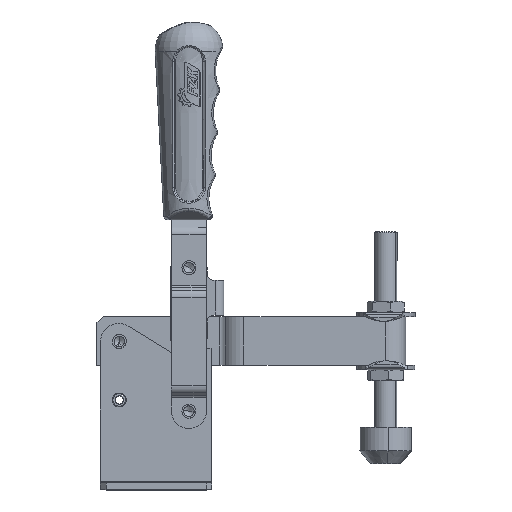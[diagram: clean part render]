
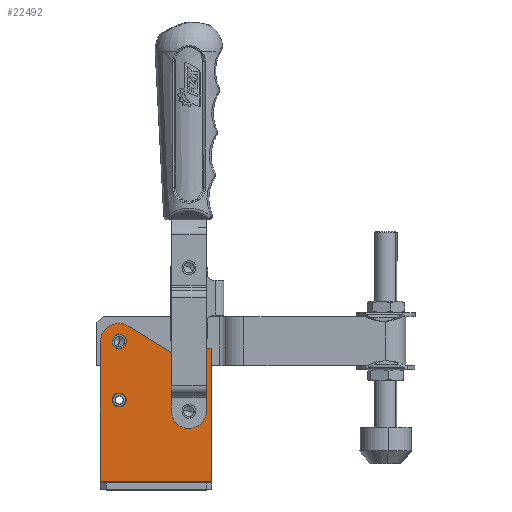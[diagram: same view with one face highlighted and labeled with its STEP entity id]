
A CAD part, top view. The second image highlights one B-rep face of the part: STEP entity #22492.
In plain terms, the highlighted planar face has unit normal (0, 0, 1).
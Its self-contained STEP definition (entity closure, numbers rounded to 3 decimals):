
#164 = CARTESIAN_POINT ( 'NONE',  ( 13.5, 136.997, 5. ) ) ;
#466 = ORIENTED_EDGE ( 'NONE', *, *, #13673, .T. ) ;
#587 = PLANE ( 'NONE',  #29264 ) ;
#688 = AXIS2_PLACEMENT_3D ( 'NONE', #164, #25262, #12960 ) ;
#746 = VERTEX_POINT ( 'NONE', #4197 ) ;
#866 = DIRECTION ( 'NONE',  ( 0., 0., 1. ) ) ;
#889 = DIRECTION ( 'NONE',  ( -1., 0., 0. ) ) ;
#1905 = ORIENTED_EDGE ( 'NONE', *, *, #17325, .T. ) ;
#2226 = VECTOR ( 'NONE', #2528, 1000. ) ;
#2232 = DIRECTION ( 'NONE',  ( 0., 0., 1. ) ) ;
#2513 = LINE ( 'NONE', #9915, #32163 ) ;
#2528 = DIRECTION ( 'NONE',  ( 1., 0., 0. ) ) ;
#3041 = FACE_OUTER_BOUND ( 'NONE', #17017, .T. ) ;
#3813 = CIRCLE ( 'NONE', #688, 5. ) ;
#4197 = CARTESIAN_POINT ( 'NONE',  ( 8.5, 136.997, 5. ) ) ;
#4724 = EDGE_CURVE ( 'NONE', #746, #17365, #7671, .T. ) ;
#5015 = DIRECTION ( 'NONE',  ( -1., 0., 0. ) ) ;
#5087 = CARTESIAN_POINT ( 'NONE',  ( 80., 131.497, 5. ) ) ;
#5355 = FACE_BOUND ( 'NONE', #15158, .T. ) ;
#5454 = CARTESIAN_POINT ( 'NONE',  ( 18.5, 95., 5. ) ) ;
#5609 = CARTESIAN_POINT ( 'NONE',  ( 80., 36.499, 5. ) ) ;
#5649 = AXIS2_PLACEMENT_3D ( 'NONE', #17110, #9088, #26788 ) ;
#5791 = CARTESIAN_POINT ( 'NONE',  ( 63.5, 87., 5. ) ) ;
#5844 = DIRECTION ( 'NONE',  ( 0., 0., 1. ) ) ;
#6181 = VERTEX_POINT ( 'NONE', #17972 ) ;
#6358 = DIRECTION ( 'NONE',  ( 1., 0., 0. ) ) ;
#6775 = VERTEX_POINT ( 'NONE', #8251 ) ;
#6825 = ORIENTED_EDGE ( 'NONE', *, *, #25331, .F. ) ;
#6865 = EDGE_CURVE ( 'NONE', #13049, #6775, #9532, .T. ) ;
#7455 = CARTESIAN_POINT ( 'NONE',  ( 63.5, 36.499, 5. ) ) ;
#7469 = ORIENTED_EDGE ( 'NONE', *, *, #27744, .T. ) ;
#7608 = CIRCLE ( 'NONE', #22887, 13. ) ;
#7671 = CIRCLE ( 'NONE', #9240, 5. ) ;
#7718 = CARTESIAN_POINT ( 'NONE',  ( 18.5, 136.997, 5. ) ) ;
#7986 = DIRECTION ( 'NONE',  ( -1., 0., 0. ) ) ;
#8094 = VERTEX_POINT ( 'NONE', #20250 ) ;
#8251 = CARTESIAN_POINT ( 'NONE',  ( 56.5, 87., 5. ) ) ;
#8276 = DIRECTION ( 'NONE',  ( -0.852, 0.523, 0. ) ) ;
#8458 = DIRECTION ( 'NONE',  ( -1., 0., 0. ) ) ;
#9088 = DIRECTION ( 'NONE',  ( 0., 0., 1. ) ) ;
#9240 = AXIS2_PLACEMENT_3D ( 'NONE', #14535, #24864, #12714 ) ;
#9532 = CIRCLE ( 'NONE', #14230, 7. ) ;
#9757 = CARTESIAN_POINT ( 'NONE',  ( 0., 136.997, 5. ) ) ;
#9915 = CARTESIAN_POINT ( 'NONE',  ( 80., 4., 5. ) ) ;
#9966 = VERTEX_POINT ( 'NONE', #5454 ) ;
#10297 = CARTESIAN_POINT ( 'NONE',  ( 75.575, 131.682, 5. ) ) ;
#10363 = CIRCLE ( 'NONE', #5649, 5. ) ;
#10391 = VERTEX_POINT ( 'NONE', #15486 ) ;
#10479 = EDGE_CURVE ( 'NONE', #32410, #10391, #32370, .T. ) ;
#10585 = EDGE_CURVE ( 'NONE', #9966, #8094, #10363, .T. ) ;
#10936 = ORIENTED_EDGE ( 'NONE', *, *, #10585, .F. ) ;
#11055 = DIRECTION ( 'NONE',  ( 0., 0., -1. ) ) ;
#12002 = LINE ( 'NONE', #21700, #31234 ) ;
#12147 = ORIENTED_EDGE ( 'NONE', *, *, #21933, .T. ) ;
#12205 = CIRCLE ( 'NONE', #25368, 7. ) ;
#12626 = ORIENTED_EDGE ( 'NONE', *, *, #10479, .T. ) ;
#12714 = DIRECTION ( 'NONE',  ( -1., 0., 0. ) ) ;
#12888 = DIRECTION ( 'NONE',  ( 1., 0., 0. ) ) ;
#12889 = ORIENTED_EDGE ( 'NONE', *, *, #19101, .T. ) ;
#12960 = DIRECTION ( 'NONE',  ( -1., 0., 0. ) ) ;
#13049 = VERTEX_POINT ( 'NONE', #28628 ) ;
#13407 = DIRECTION ( 'NONE',  ( 0., 0., 1. ) ) ;
#13461 = EDGE_CURVE ( 'NONE', #29558, #14341, #12002, .T. ) ;
#13521 = VERTEX_POINT ( 'NONE', #25120 ) ;
#13673 = EDGE_CURVE ( 'NONE', #17412, #6181, #23885, .T. ) ;
#14230 = AXIS2_PLACEMENT_3D ( 'NONE', #5791, #866, #23501 ) ;
#14341 = VERTEX_POINT ( 'NONE', #25953 ) ;
#14535 = CARTESIAN_POINT ( 'NONE',  ( 13.5, 136.997, 5. ) ) ;
#15158 = EDGE_LOOP ( 'NONE', ( #26232, #10936 ) ) ;
#15360 = VECTOR ( 'NONE', #8276, 1000. ) ;
#15361 = CARTESIAN_POINT ( 'NONE',  ( 63.5, 87., 5. ) ) ;
#15486 = CARTESIAN_POINT ( 'NONE',  ( 56.697, 125.419, 5. ) ) ;
#16154 = LINE ( 'NONE', #28962, #20319 ) ;
#16653 = EDGE_LOOP ( 'NONE', ( #17744, #6825 ) ) ;
#16832 = EDGE_CURVE ( 'NONE', #6775, #13049, #12205, .T. ) ;
#17017 = EDGE_LOOP ( 'NONE', ( #17785, #19649, #12889, #466, #12147, #27820, #12626, #1905, #7469 ) ) ;
#17110 = CARTESIAN_POINT ( 'NONE',  ( 13.5, 95., 5. ) ) ;
#17325 = EDGE_CURVE ( 'NONE', #10391, #13521, #21226, .T. ) ;
#17365 = VERTEX_POINT ( 'NONE', #7718 ) ;
#17412 = VERTEX_POINT ( 'NONE', #5087 ) ;
#17485 = CARTESIAN_POINT ( 'NONE',  ( 13., 136.997, 5. ) ) ;
#17744 = ORIENTED_EDGE ( 'NONE', *, *, #4724, .F. ) ;
#17785 = ORIENTED_EDGE ( 'NONE', *, *, #13461, .T. ) ;
#17972 = CARTESIAN_POINT ( 'NONE',  ( 79.5, 131.997, 5. ) ) ;
#18138 = FACE_BOUND ( 'NONE', #16653, .T. ) ;
#18825 = CARTESIAN_POINT ( 'NONE',  ( 79.5, 131.497, 5. ) ) ;
#19101 = EDGE_CURVE ( 'NONE', #21429, #17412, #2513, .T. ) ;
#19203 = AXIS2_PLACEMENT_3D ( 'NONE', #24158, #23836, #7986 ) ;
#19356 = ORIENTED_EDGE ( 'NONE', *, *, #6865, .F. ) ;
#19649 = ORIENTED_EDGE ( 'NONE', *, *, #23270, .T. ) ;
#20250 = CARTESIAN_POINT ( 'NONE',  ( 8.5, 95., 5. ) ) ;
#20270 = CARTESIAN_POINT ( 'NONE',  ( 76.04, 131.997, 5. ) ) ;
#20319 = VECTOR ( 'NONE', #30776, 1000. ) ;
#21226 = LINE ( 'NONE', #28772, #15360 ) ;
#21429 = VERTEX_POINT ( 'NONE', #5609 ) ;
#21700 = CARTESIAN_POINT ( 'NONE',  ( 0., 136.997, 5. ) ) ;
#21933 = EDGE_CURVE ( 'NONE', #6181, #28340, #16154, .T. ) ;
#22492 = ADVANCED_FACE ( 'NONE', ( #5355, #18138, #23543, #3041 ), #587, .F. ) ;
#22732 = CARTESIAN_POINT ( 'NONE',  ( 63.5, 136.497, 5. ) ) ;
#22887 = AXIS2_PLACEMENT_3D ( 'NONE', #17485, #24876, #12888 ) ;
#23270 = EDGE_CURVE ( 'NONE', #14341, #21429, #29933, .T. ) ;
#23501 = DIRECTION ( 'NONE',  ( -1., 0., 0. ) ) ;
#23543 = FACE_BOUND ( 'NONE', #28975, .T. ) ;
#23836 = DIRECTION ( 'NONE',  ( 0., 0., 1. ) ) ;
#23885 = CIRCLE ( 'NONE', #24432, 0.5 ) ;
#24158 = CARTESIAN_POINT ( 'NONE',  ( 76.04, 131.497, 5. ) ) ;
#24432 = AXIS2_PLACEMENT_3D ( 'NONE', #18825, #13407, #6358 ) ;
#24451 = CIRCLE ( 'NONE', #19203, 0.5 ) ;
#24864 = DIRECTION ( 'NONE',  ( 0., 0., 1. ) ) ;
#24876 = DIRECTION ( 'NONE',  ( 0., 0., 1. ) ) ;
#25030 = AXIS2_PLACEMENT_3D ( 'NONE', #22732, #11055, #889 ) ;
#25120 = CARTESIAN_POINT ( 'NONE',  ( 19.803, 148.075, 5. ) ) ;
#25262 = DIRECTION ( 'NONE',  ( 0., 0., 1. ) ) ;
#25331 = EDGE_CURVE ( 'NONE', #17365, #746, #3813, .T. ) ;
#25368 = AXIS2_PLACEMENT_3D ( 'NONE', #15361, #5844, #8458 ) ;
#25953 = CARTESIAN_POINT ( 'NONE',  ( 0., 36.499, 5. ) ) ;
#26232 = ORIENTED_EDGE ( 'NONE', *, *, #29336, .F. ) ;
#26469 = AXIS2_PLACEMENT_3D ( 'NONE', #27323, #2232, #5015 ) ;
#26788 = DIRECTION ( 'NONE',  ( -1., 0., 0. ) ) ;
#27323 = CARTESIAN_POINT ( 'NONE',  ( 13.5, 95., 5. ) ) ;
#27744 = EDGE_CURVE ( 'NONE', #13521, #29558, #7608, .T. ) ;
#27820 = ORIENTED_EDGE ( 'NONE', *, *, #31346, .T. ) ;
#28145 = DIRECTION ( 'NONE',  ( 0., 0., -1. ) ) ;
#28340 = VERTEX_POINT ( 'NONE', #20270 ) ;
#28628 = CARTESIAN_POINT ( 'NONE',  ( 70.5, 87., 5. ) ) ;
#28772 = CARTESIAN_POINT ( 'NONE',  ( 56.697, 125.419, 5. ) ) ;
#28962 = CARTESIAN_POINT ( 'NONE',  ( 79.5, 131.997, 5. ) ) ;
#28975 = EDGE_LOOP ( 'NONE', ( #31074, #19356 ) ) ;
#29110 = CIRCLE ( 'NONE', #26469, 5. ) ;
#29264 = AXIS2_PLACEMENT_3D ( 'NONE', #30448, #28145, #30612 ) ;
#29336 = EDGE_CURVE ( 'NONE', #8094, #9966, #29110, .T. ) ;
#29558 = VERTEX_POINT ( 'NONE', #9757 ) ;
#29763 = DIRECTION ( 'NONE',  ( 0., 1., 0. ) ) ;
#29933 = LINE ( 'NONE', #7455, #2226 ) ;
#30448 = CARTESIAN_POINT ( 'NONE',  ( 63.5, 136.497, 5. ) ) ;
#30612 = DIRECTION ( 'NONE',  ( 0., -1., 0. ) ) ;
#30776 = DIRECTION ( 'NONE',  ( -1., 0., 0. ) ) ;
#31074 = ORIENTED_EDGE ( 'NONE', *, *, #16832, .F. ) ;
#31234 = VECTOR ( 'NONE', #32022, 1000. ) ;
#31346 = EDGE_CURVE ( 'NONE', #28340, #32410, #24451, .T. ) ;
#32022 = DIRECTION ( 'NONE',  ( 0., -1., 0. ) ) ;
#32163 = VECTOR ( 'NONE', #29763, 1000. ) ;
#32370 = CIRCLE ( 'NONE', #25030, 13. ) ;
#32410 = VERTEX_POINT ( 'NONE', #10297 ) ;
